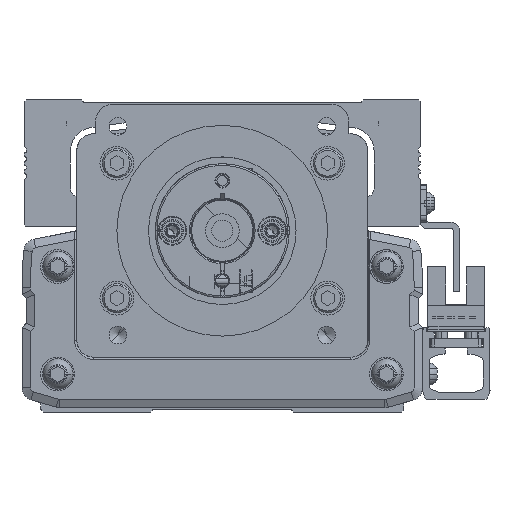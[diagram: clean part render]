
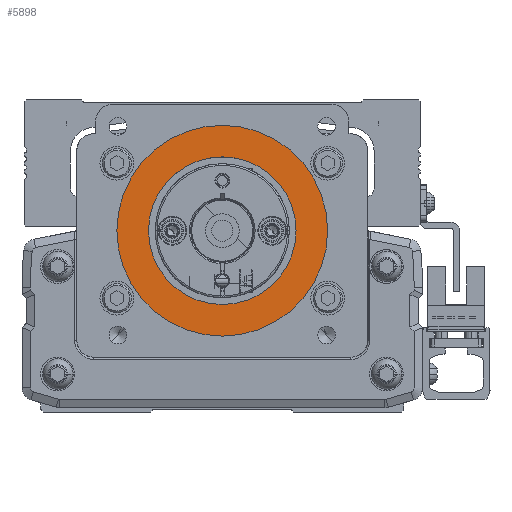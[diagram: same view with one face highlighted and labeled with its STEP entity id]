
A CAD part, front view. The second image highlights one B-rep face of the part: STEP entity #5898.
In plain terms, the highlighted planar face has unit normal (0, -1, 0).
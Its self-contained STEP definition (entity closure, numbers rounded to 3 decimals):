
#5898=ADVANCED_FACE('',(#14284,#14285),#14286,.T.);
#14284=FACE_BOUND('',#26280,.T.);
#14285=FACE_OUTER_BOUND('',#26281,.T.);
#14286=PLANE('',#26282);
#26280=EDGE_LOOP('',(#43948,#43949));
#26281=EDGE_LOOP('',(#43950,#43951));
#26282=AXIS2_PLACEMENT_3D('',#43952,#43953,#43954);
#43948=ORIENTED_EDGE('',*,*,#73070,.T.);
#43949=ORIENTED_EDGE('',*,*,#73071,.T.);
#43950=ORIENTED_EDGE('',*,*,#70220,.F.);
#43951=ORIENTED_EDGE('',*,*,#73072,.F.);
#43952=CARTESIAN_POINT('',(0.,-210.778,0.));
#43953=DIRECTION('',(0.,-1.0,0.));
#43954=DIRECTION('',(1.0,0.,0.));
#70220=EDGE_CURVE('',#84212,#84215,#84216,.T.);
#73070=EDGE_CURVE('',#88939,#88940,#88941,.T.);
#73071=EDGE_CURVE('',#88940,#88939,#88942,.T.);
#73072=EDGE_CURVE('',#84215,#84212,#88943,.T.);
#84212=VERTEX_POINT('',#103874);
#84215=VERTEX_POINT('',#103878);
#84216=CIRCLE('',#103879,25.0);
#88939=VERTEX_POINT('',#111114);
#88940=VERTEX_POINT('',#111115);
#88941=CIRCLE('',#111116,17.5);
#88942=CIRCLE('',#111117,17.5);
#88943=CIRCLE('',#111118,25.0);
#103874=CARTESIAN_POINT('',(25.,-210.778,0.));
#103878=CARTESIAN_POINT('',(-25.,-210.778,0.));
#103879=AXIS2_PLACEMENT_3D('',#128604,#128605,#128606);
#111114=CARTESIAN_POINT('',(17.5,-210.778,0.));
#111115=CARTESIAN_POINT('',(-17.5,-210.778,0.));
#111116=AXIS2_PLACEMENT_3D('',#132324,#132325,#132326);
#111117=AXIS2_PLACEMENT_3D('',#132327,#132328,#132329);
#111118=AXIS2_PLACEMENT_3D('',#132330,#132331,#132332);
#128604=CARTESIAN_POINT('',(0.,-210.778,0.));
#128605=DIRECTION('',(0.,1.0,0.));
#128606=DIRECTION('',(1.0,0.,0.));
#132324=CARTESIAN_POINT('',(0.,-210.778,0.));
#132325=DIRECTION('',(0.,1.0,0.));
#132326=DIRECTION('',(-1.0,0.,0.));
#132327=CARTESIAN_POINT('',(0.,-210.778,0.));
#132328=DIRECTION('',(0.,1.0,0.));
#132329=DIRECTION('',(-1.0,0.,0.));
#132330=CARTESIAN_POINT('',(0.,-210.778,0.));
#132331=DIRECTION('',(0.,1.0,0.));
#132332=DIRECTION('',(1.0,0.,0.));
